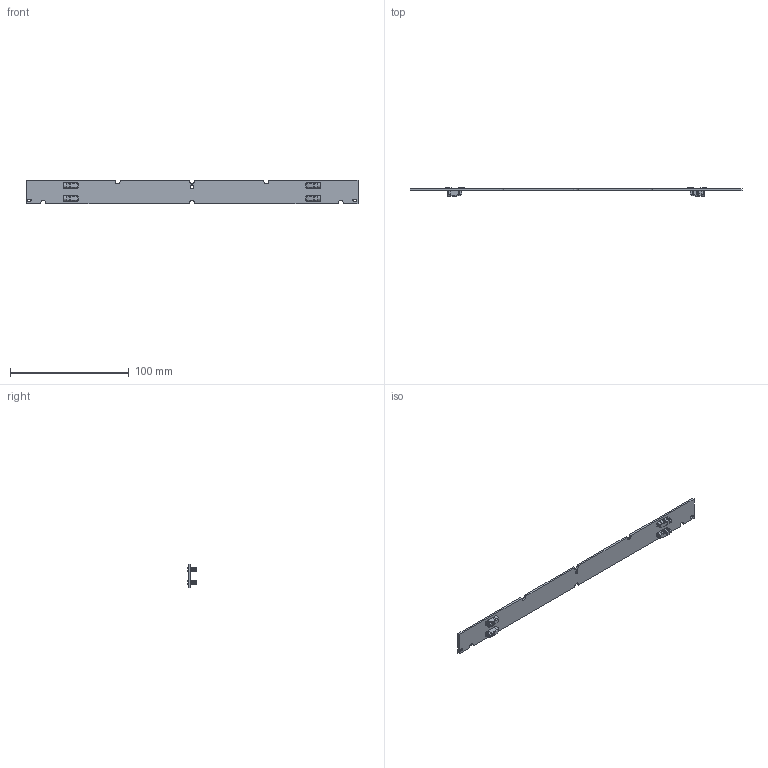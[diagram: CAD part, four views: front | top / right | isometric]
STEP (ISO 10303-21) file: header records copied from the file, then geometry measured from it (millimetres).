
FILE_DESCRIPTION (( 'STEP AP214' ), '1' );
FILE_NAME ('WU-M-609-BC.STEP', '2018-07-16T05:44:26', ( 'Admin' ), ( 'Microsoft' ), 'SwSTEP 2.0', 'SolidWorks 2017', '' );
FILE_SCHEMA (( 'AUTOMOTIVE_DESIGN' ));
Length unit declared in the file: millimetre
Products named in the file (4): WU-M-609-BC; 46_111_1001; STW8C2PB-E1; WU-M-609 PCB-Base
Assembly tree (29 placements, depth 2):
  WU-M-609-BC
    WU-M-609 PCB-Base
    STW8C2PB-E1  x24
    46_111_1001  x4
Bounding box: 279 x 7.43 x 20 mm (x, y, z)
Volume: 9186.8 mm3; surface area: 14731.7 mm2
Topology: 29 solids, 29 shells, 4973 faces, 13308 edges, 8856 vertices
Faces by surface type: plane 3239, cylinder 1059, bspline 675
Entity records: 133352 total; most frequent: CARTESIAN_POINT 44465, ORIENTED_EDGE 14562, DIRECTION 10402, EDGE_CURVE 7281, VERTEX_POINT 4850, VECTOR 4400, LINE 4400, AXIS2_PLACEMENT_3D 3001
